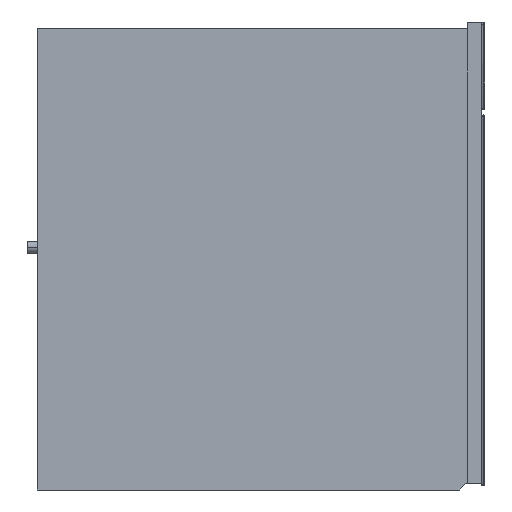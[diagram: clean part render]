
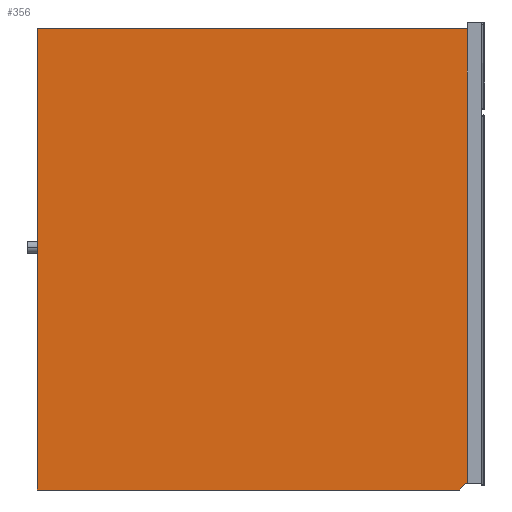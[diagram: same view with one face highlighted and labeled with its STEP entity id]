
A CAD part, front view. The second image highlights one B-rep face of the part: STEP entity #356.
In plain terms, the highlighted planar face has unit normal (0, -1, 0).
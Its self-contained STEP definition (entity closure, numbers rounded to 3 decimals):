
#297=AXIS2_PLACEMENT_3D('Plane Axis2P3D',#294,#295,#296) ;
#268=CARTESIAN_POINT('Vertex',(-547.82,-273.8,587.7)) ;
#271=CARTESIAN_POINT('Line Origine',(-273.91,-273.8,587.7)) ;
#275=CARTESIAN_POINT('Vertex',(0.,-273.8,587.7)) ;
#294=CARTESIAN_POINT('Axis2P3D Location',(-9.2,-273.8,427.1)) ;
#299=CARTESIAN_POINT('Line Origine',(-547.82,-273.8,293.85)) ;
#303=CARTESIAN_POINT('Vertex',(-547.82,-273.8,0.)) ;
#306=CARTESIAN_POINT('Line Origine',(-278.939,-273.8,0.)) ;
#310=CARTESIAN_POINT('Vertex',(-10.058,-273.8,0.)) ;
#313=CARTESIAN_POINT('Line Origine',(-6.517,-273.8,4.)) ;
#317=CARTESIAN_POINT('Vertex',(-2.975,-273.8,8.)) ;
#320=CARTESIAN_POINT('Line Origine',(-1.437,-273.8,8.)) ;
#324=CARTESIAN_POINT('Vertex',(0.1,-273.8,8.)) ;
#327=CARTESIAN_POINT('Line Origine',(0.1,-273.8,246.849)) ;
#331=CARTESIAN_POINT('Vertex',(0.1,-273.8,485.699)) ;
#334=CARTESIAN_POINT('Line Origine',(0.05,-273.8,485.699)) ;
#338=CARTESIAN_POINT('Vertex',(0.,-273.8,485.699)) ;
#341=CARTESIAN_POINT('Line Origine',(0.,-273.8,536.699)) ;
#272=DIRECTION('Vector Direction',(-1.,0.,0.)) ;
#295=DIRECTION('Axis2P3D Direction',(0.,-1.,0.)) ;
#296=DIRECTION('Axis2P3D XDirection',(1.,0.,0.)) ;
#300=DIRECTION('Vector Direction',(0.,0.,1.)) ;
#307=DIRECTION('Vector Direction',(1.,0.,0.)) ;
#314=DIRECTION('Vector Direction',(0.663,0.,0.749)) ;
#321=DIRECTION('Vector Direction',(1.,0.,0.)) ;
#328=DIRECTION('Vector Direction',(0.,0.,1.)) ;
#335=DIRECTION('Vector Direction',(1.,0.,0.)) ;
#342=DIRECTION('Vector Direction',(0.,0.,1.)) ;
#273=VECTOR('Line Direction',#272,1.) ;
#301=VECTOR('Line Direction',#300,1.) ;
#308=VECTOR('Line Direction',#307,1.) ;
#315=VECTOR('Line Direction',#314,1.) ;
#322=VECTOR('Line Direction',#321,1.) ;
#329=VECTOR('Line Direction',#328,1.) ;
#336=VECTOR('Line Direction',#335,1.) ;
#343=VECTOR('Line Direction',#342,1.) ;
#347=ORIENTED_EDGE('',*,*,#277,.T.) ;
#348=ORIENTED_EDGE('',*,*,#305,.T.) ;
#349=ORIENTED_EDGE('',*,*,#312,.T.) ;
#350=ORIENTED_EDGE('',*,*,#319,.T.) ;
#351=ORIENTED_EDGE('',*,*,#326,.T.) ;
#352=ORIENTED_EDGE('',*,*,#333,.T.) ;
#353=ORIENTED_EDGE('',*,*,#340,.F.) ;
#354=ORIENTED_EDGE('',*,*,#345,.T.) ;
#356=ADVANCED_FACE('Gehaeuse',(#355),#298,.T.) ;
#277=EDGE_CURVE('',#276,#269,#274,.T.) ;
#305=EDGE_CURVE('',#269,#304,#302,.F.) ;
#312=EDGE_CURVE('',#304,#311,#309,.T.) ;
#319=EDGE_CURVE('',#311,#318,#316,.T.) ;
#326=EDGE_CURVE('',#318,#325,#323,.T.) ;
#333=EDGE_CURVE('',#325,#332,#330,.T.) ;
#340=EDGE_CURVE('',#339,#332,#337,.T.) ;
#345=EDGE_CURVE('',#339,#276,#344,.T.) ;
#346=EDGE_LOOP('',(#347,#348,#349,#350,#351,#352,#353,#354)) ;
#355=FACE_OUTER_BOUND('',#346,.T.) ;
#274=LINE('Line',#271,#273) ;
#302=LINE('Line',#299,#301) ;
#309=LINE('Line',#306,#308) ;
#316=LINE('Line',#313,#315) ;
#323=LINE('Line',#320,#322) ;
#330=LINE('Line',#327,#329) ;
#337=LINE('Line',#334,#336) ;
#344=LINE('Line',#341,#343) ;
#298=PLANE('',#297) ;
#269=VERTEX_POINT('',#268) ;
#276=VERTEX_POINT('',#275) ;
#304=VERTEX_POINT('',#303) ;
#311=VERTEX_POINT('',#310) ;
#318=VERTEX_POINT('',#317) ;
#325=VERTEX_POINT('',#324) ;
#332=VERTEX_POINT('',#331) ;
#339=VERTEX_POINT('',#338) ;
